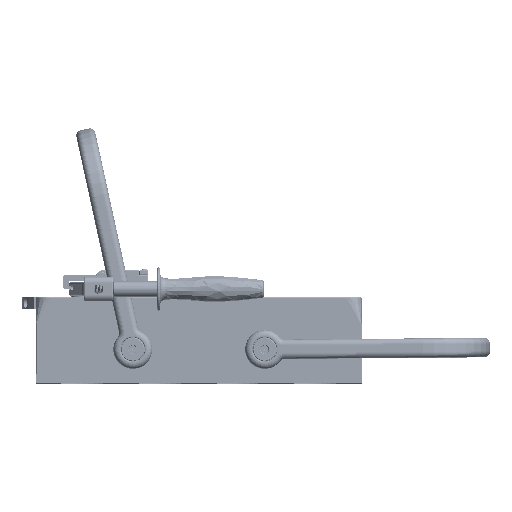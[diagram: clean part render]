
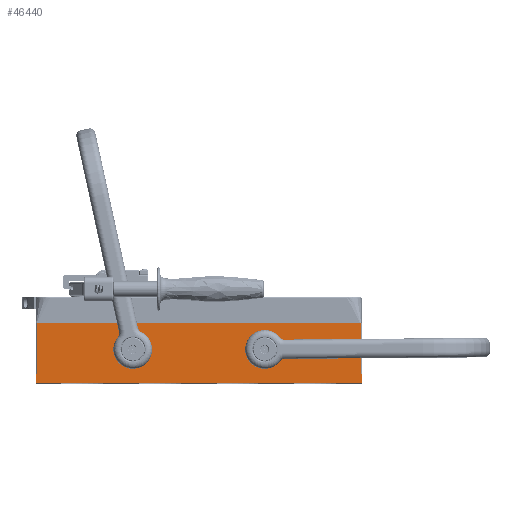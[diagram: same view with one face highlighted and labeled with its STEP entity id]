
A CAD part, top view. The second image highlights one B-rep face of the part: STEP entity #46440.
In plain terms, the highlighted planar face has unit normal (0, 0, 1).
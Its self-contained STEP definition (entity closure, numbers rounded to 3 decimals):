
#1074 = DIRECTION ( 'NONE',  ( 0., -1., 0. ) ) ;
#1157 = EDGE_CURVE ( 'NONE', #252132, #200758, #66364, .T. ) ;
#3965 = VERTEX_POINT ( 'NONE', #93670 ) ;
#11036 = DIRECTION ( 'NONE',  ( 0., -1., 0. ) ) ;
#17362 = EDGE_CURVE ( 'NONE', #200758, #252132, #136834, .T. ) ;
#18058 = AXIS2_PLACEMENT_3D ( 'NONE', #102969, #132221, #1074 ) ;
#18925 = CARTESIAN_POINT ( 'NONE',  ( 188.859, -35.209, 44.05 ) ) ;
#22634 = ORIENTED_EDGE ( 'NONE', *, *, #115017, .F. ) ;
#25515 = CARTESIAN_POINT ( 'NONE',  ( -47.141, -10.209, 44.05 ) ) ;
#29705 = EDGE_CURVE ( 'NONE', #3965, #52711, #97935, .T. ) ;
#32170 = AXIS2_PLACEMENT_3D ( 'NONE', #216852, #159575, #215681 ) ;
#33890 = EDGE_CURVE ( 'NONE', #267184, #331497, #85958, .T. ) ;
#36484 = EDGE_LOOP ( 'NONE', ( #22634, #345199 ) ) ;
#38230 = VERTEX_POINT ( 'NONE', #172309 ) ;
#39589 = DIRECTION ( 'NONE',  ( 1., 0., 0. ) ) ;
#39977 = CARTESIAN_POINT ( 'NONE',  ( -147.141, -35.209, 44.05 ) ) ;
#44183 = CARTESIAN_POINT ( 'NONE',  ( 188.859, -35.209, 44.05 ) ) ;
#45817 = VECTOR ( 'NONE', #39589, 1000. ) ;
#46440 = ADVANCED_FACE ( 'NONE', ( #131867, #341132, #311959 ), #346446, .F. ) ;
#50944 = VECTOR ( 'NONE', #204576, 1000. ) ;
#51358 = VECTOR ( 'NONE', #11036, 1000. ) ;
#52711 = VERTEX_POINT ( 'NONE', #247691 ) ;
#58780 = VERTEX_POINT ( 'NONE', #183109 ) ;
#64224 = ORIENTED_EDGE ( 'NONE', *, *, #319605, .F. ) ;
#66364 = CIRCLE ( 'NONE', #317582, 6. ) ;
#73226 = EDGE_LOOP ( 'NONE', ( #180756, #88006 ) ) ;
#77603 = VECTOR ( 'NONE', #223724, 1000. ) ;
#78051 = AXIS2_PLACEMENT_3D ( 'NONE', #25515, #105108, #212812 ) ;
#85958 = LINE ( 'NONE', #195585, #77603 ) ;
#88006 = ORIENTED_EDGE ( 'NONE', *, *, #1157, .F. ) ;
#89313 = VERTEX_POINT ( 'NONE', #221588 ) ;
#90591 = CARTESIAN_POINT ( 'NONE',  ( 188.859, -35.209, 44.05 ) ) ;
#93670 = CARTESIAN_POINT ( 'NONE',  ( -147.141, -45.209, 44.05 ) ) ;
#97935 = LINE ( 'NONE', #232013, #257213 ) ;
#99519 = DIRECTION ( 'NONE',  ( 0., 0., 1. ) ) ;
#100139 = LINE ( 'NONE', #44183, #45817 ) ;
#102969 = CARTESIAN_POINT ( 'NONE',  ( 188.859, -35.209, 44.05 ) ) ;
#104985 = EDGE_CURVE ( 'NONE', #89313, #331497, #245865, .T. ) ;
#105108 = DIRECTION ( 'NONE',  ( 0., 0., 1. ) ) ;
#114277 = ORIENTED_EDGE ( 'NONE', *, *, #136612, .F. ) ;
#114413 = CARTESIAN_POINT ( 'NONE',  ( 187.859, 16.791, 44.05 ) ) ;
#115017 = EDGE_CURVE ( 'NONE', #271538, #38230, #226004, .T. ) ;
#117088 = DIRECTION ( 'NONE',  ( 0., 0., 1. ) ) ;
#117260 = DIRECTION ( 'NONE',  ( 0., -1., 0. ) ) ;
#117451 = ORIENTED_EDGE ( 'NONE', *, *, #295490, .F. ) ;
#122172 = LINE ( 'NONE', #123873, #50944 ) ;
#123664 = EDGE_CURVE ( 'NONE', #38230, #271538, #139448, .T. ) ;
#123873 = CARTESIAN_POINT ( 'NONE',  ( -146.141, 16.791, 44.05 ) ) ;
#131867 = FACE_OUTER_BOUND ( 'NONE', #153130, .T. ) ;
#132221 = DIRECTION ( 'NONE',  ( 0., 0., -1. ) ) ;
#136612 = EDGE_CURVE ( 'NONE', #89313, #156867, #234946, .T. ) ;
#136834 = CIRCLE ( 'NONE', #78051, 6. ) ;
#139448 = CIRCLE ( 'NONE', #32170, 6. ) ;
#153130 = EDGE_LOOP ( 'NONE', ( #255179, #117451, #114277, #293705, #251945, #155314, #64224, #311293 ) ) ;
#155263 = EDGE_CURVE ( 'NONE', #267184, #58780, #122172, .T. ) ;
#155314 = ORIENTED_EDGE ( 'NONE', *, *, #155263, .T. ) ;
#156867 = VERTEX_POINT ( 'NONE', #18925 ) ;
#159575 = DIRECTION ( 'NONE',  ( 0., 0., 1. ) ) ;
#172309 = CARTESIAN_POINT ( 'NONE',  ( 82.859, -10.209, 44.05 ) ) ;
#174717 = VECTOR ( 'NONE', #251297, 1000. ) ;
#180756 = ORIENTED_EDGE ( 'NONE', *, *, #17362, .F. ) ;
#183109 = CARTESIAN_POINT ( 'NONE',  ( -146.141, -35.209, 44.05 ) ) ;
#195585 = CARTESIAN_POINT ( 'NONE',  ( -147.141, 16.791, 44.05 ) ) ;
#196787 = AXIS2_PLACEMENT_3D ( 'NONE', #277446, #117088, #304375 ) ;
#200758 = VERTEX_POINT ( 'NONE', #204045 ) ;
#204045 = CARTESIAN_POINT ( 'NONE',  ( -41.141, -10.209, 44.05 ) ) ;
#204576 = DIRECTION ( 'NONE',  ( 0., -1., 0. ) ) ;
#208694 = VERTEX_POINT ( 'NONE', #333552 ) ;
#212812 = DIRECTION ( 'NONE',  ( 1., 0., 0. ) ) ;
#215681 = DIRECTION ( 'NONE',  ( 1., 0., 0. ) ) ;
#216852 = CARTESIAN_POINT ( 'NONE',  ( 88.859, -10.209, 44.05 ) ) ;
#217261 = CARTESIAN_POINT ( 'NONE',  ( 187.859, 16.791, 44.05 ) ) ;
#221588 = CARTESIAN_POINT ( 'NONE',  ( 187.859, -35.209, 44.05 ) ) ;
#223724 = DIRECTION ( 'NONE',  ( 1., 0., 0. ) ) ;
#226004 = CIRCLE ( 'NONE', #196787, 6. ) ;
#227394 = LINE ( 'NONE', #90591, #51358 ) ;
#231877 = DIRECTION ( 'NONE',  ( 1., 0., 0. ) ) ;
#232013 = CARTESIAN_POINT ( 'NONE',  ( -147.141, -45.209, 44.05 ) ) ;
#234946 = LINE ( 'NONE', #250266, #323003 ) ;
#245865 = LINE ( 'NONE', #114413, #174717 ) ;
#247691 = CARTESIAN_POINT ( 'NONE',  ( 188.859, -45.209, 44.05 ) ) ;
#250266 = CARTESIAN_POINT ( 'NONE',  ( 188.859, -35.209, 44.05 ) ) ;
#251297 = DIRECTION ( 'NONE',  ( 0., 1., 0. ) ) ;
#251945 = ORIENTED_EDGE ( 'NONE', *, *, #33890, .F. ) ;
#252132 = VERTEX_POINT ( 'NONE', #336436 ) ;
#255179 = ORIENTED_EDGE ( 'NONE', *, *, #29705, .T. ) ;
#257213 = VECTOR ( 'NONE', #316260, 1000. ) ;
#258798 = CARTESIAN_POINT ( 'NONE',  ( -47.141, -10.209, 44.05 ) ) ;
#267184 = VERTEX_POINT ( 'NONE', #306229 ) ;
#271538 = VERTEX_POINT ( 'NONE', #321495 ) ;
#273719 = DIRECTION ( 'NONE',  ( 1., 0., 0. ) ) ;
#277446 = CARTESIAN_POINT ( 'NONE',  ( 88.859, -10.209, 44.05 ) ) ;
#283232 = VECTOR ( 'NONE', #117260, 1000. ) ;
#293705 = ORIENTED_EDGE ( 'NONE', *, *, #104985, .T. ) ;
#295490 = EDGE_CURVE ( 'NONE', #156867, #52711, #227394, .T. ) ;
#295650 = LINE ( 'NONE', #39977, #283232 ) ;
#304375 = DIRECTION ( 'NONE',  ( 1., 0., 0. ) ) ;
#306229 = CARTESIAN_POINT ( 'NONE',  ( -146.141, 16.791, 44.05 ) ) ;
#311293 = ORIENTED_EDGE ( 'NONE', *, *, #315536, .T. ) ;
#311959 = FACE_BOUND ( 'NONE', #36484, .T. ) ;
#315536 = EDGE_CURVE ( 'NONE', #208694, #3965, #295650, .T. ) ;
#316260 = DIRECTION ( 'NONE',  ( 1., 0., 0. ) ) ;
#317582 = AXIS2_PLACEMENT_3D ( 'NONE', #258798, #99519, #231877 ) ;
#319605 = EDGE_CURVE ( 'NONE', #208694, #58780, #100139, .T. ) ;
#321495 = CARTESIAN_POINT ( 'NONE',  ( 94.859, -10.209, 44.05 ) ) ;
#323003 = VECTOR ( 'NONE', #273719, 1000. ) ;
#331497 = VERTEX_POINT ( 'NONE', #217261 ) ;
#333552 = CARTESIAN_POINT ( 'NONE',  ( -147.141, -35.209, 44.05 ) ) ;
#336436 = CARTESIAN_POINT ( 'NONE',  ( -53.141, -10.209, 44.05 ) ) ;
#341132 = FACE_BOUND ( 'NONE', #73226, .T. ) ;
#345199 = ORIENTED_EDGE ( 'NONE', *, *, #123664, .F. ) ;
#346446 = PLANE ( 'NONE',  #18058 ) ;
